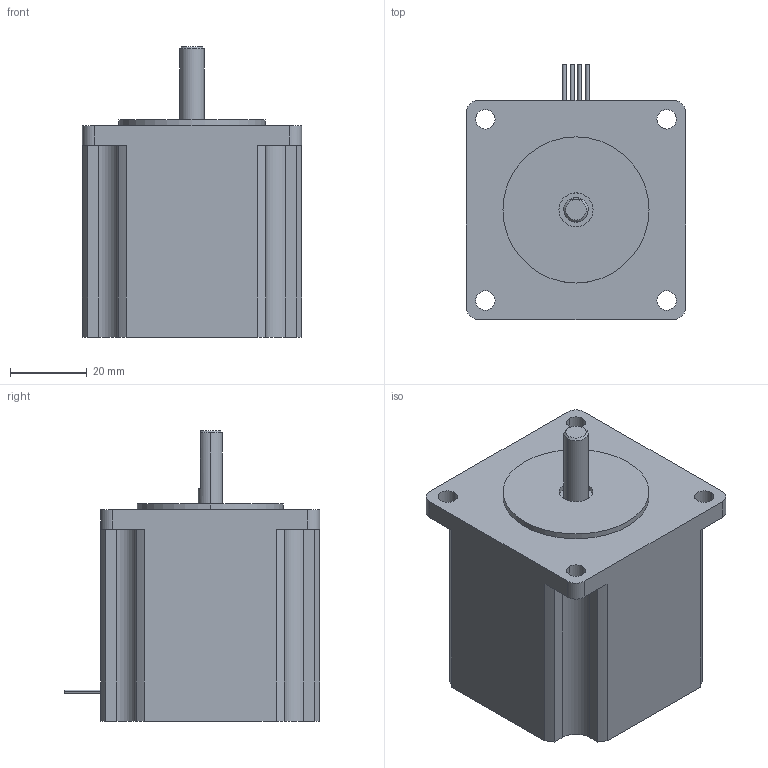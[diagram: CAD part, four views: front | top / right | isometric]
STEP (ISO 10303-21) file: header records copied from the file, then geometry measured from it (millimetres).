
FILE_DESCRIPTION((''),'2;1');
FILE_NAME('C:\Documents and Settings\rbadgerow\Desktop\webmodelmain\web step 3d\5718m\5718m s.stp','2005-05-23T09:14:33',('rbadgerow'),(''),'Autodesk Inventor 9','Autodesk Inventor 9','');
FILE_SCHEMA(('AUTOMOTIVE_DESIGN { 1 0 10303 214 1 1 1 1 }'));
Length unit declared in the file: inch
Products named in the file (1): 5718m s
Bounding box: 57.15 x 66.67 x 75.69 mm (x, y, z)
Volume: 165008.5 mm3; surface area: 19182.2 mm2
Topology: 1 solids, 1 shells, 71 faces, 182 edges, 121 vertices
Faces by surface type: cylinder 40, plane 28, cone 3
Entity records: 2234 total; most frequent: DIRECTION 411, CARTESIAN_POINT 379, ORIENTED_EDGE 364, EDGE_CURVE 182, AXIS2_PLACEMENT_3D 159, VERTEX_POINT 121, VECTOR 93, LINE 93
